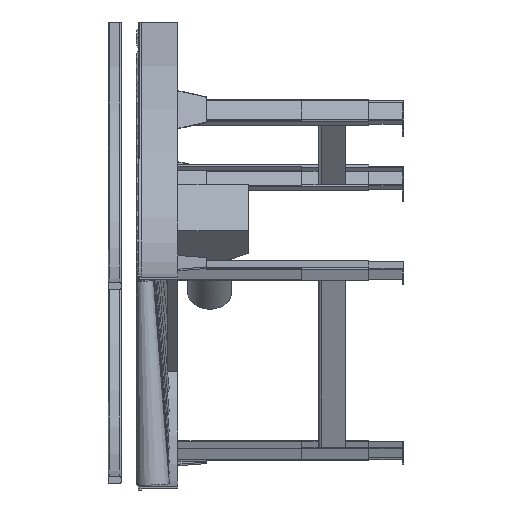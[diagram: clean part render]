
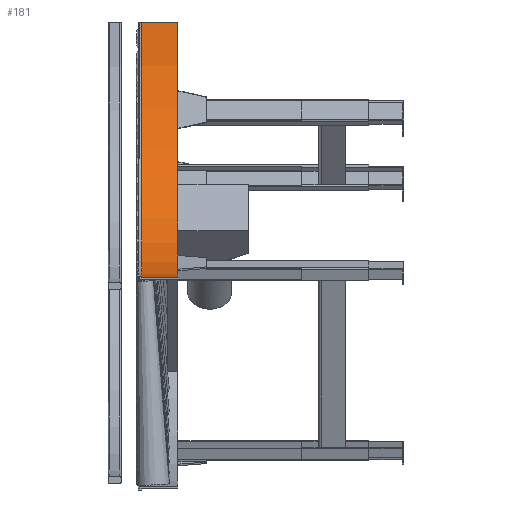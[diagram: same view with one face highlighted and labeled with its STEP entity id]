
A CAD part, left-side view. The second image highlights one B-rep face of the part: STEP entity #181.
In plain terms, the highlighted cylindrical face has radius 765 mm (diameter 1530 mm), a partial arc.
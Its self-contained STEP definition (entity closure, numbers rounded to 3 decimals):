
#140=CARTESIAN_POINT('',(0.0,54.5,0.0));
#141=DIRECTION('',(0.0,1.0,0.0));
#142=DIRECTION('',(1.0,0.0,0.0));
#143=AXIS2_PLACEMENT_3D('',#140,#141,#142);
#144=CYLINDRICAL_SURFACE('',#143,765.0);
#145=CARTESIAN_POINT('',(765.0,109.0,0.0));
#146=VERTEX_POINT('',#145);
#147=CARTESIAN_POINT('',(0.,109.0,-765.0));
#148=VERTEX_POINT('',#147);
#149=CARTESIAN_POINT('',(0.0,109.0,0.0));
#150=DIRECTION('',(0.0,1.0,0.0));
#151=DIRECTION('',(1.0,0.0,0.0));
#152=AXIS2_PLACEMENT_3D('',#149,#150,#151);
#153=CIRCLE('',#152,765.0);
#154=EDGE_CURVE('',#146,#148,#153,.T.);
#155=ORIENTED_EDGE('',*,*,#154,.T.);
#156=CARTESIAN_POINT('',(0.,0.0,-765.0));
#157=VERTEX_POINT('',#156);
#158=CARTESIAN_POINT('',(0.,109.0,-765.0));
#159=DIRECTION('',(0.0,-1.0,0.0));
#160=VECTOR('',#159,109.0);
#161=LINE('',#158,#160);
#162=EDGE_CURVE('',#148,#157,#161,.T.);
#163=ORIENTED_EDGE('',*,*,#162,.T.);
#164=CARTESIAN_POINT('',(765.0,0.0,0.0));
#165=VERTEX_POINT('',#164);
#166=CARTESIAN_POINT('',(0.0,0.0,0.0));
#167=DIRECTION('',(0.0,1.0,0.0));
#168=DIRECTION('',(1.0,0.0,0.0));
#169=AXIS2_PLACEMENT_3D('',#166,#167,#168);
#170=CIRCLE('',#169,765.0);
#171=EDGE_CURVE('',#165,#157,#170,.T.);
#172=ORIENTED_EDGE('',*,*,#171,.F.);
#173=CARTESIAN_POINT('',(765.0,109.0,0.0));
#174=DIRECTION('',(0.0,-1.0,0.0));
#175=VECTOR('',#174,109.0);
#176=LINE('',#173,#175);
#177=EDGE_CURVE('',#146,#165,#176,.T.);
#178=ORIENTED_EDGE('',*,*,#177,.F.);
#179=EDGE_LOOP('',(#155,#163,#172,#178));
#180=FACE_OUTER_BOUND('',#179,.T.);
#181=ADVANCED_FACE('',(#180),#144,.F.);
